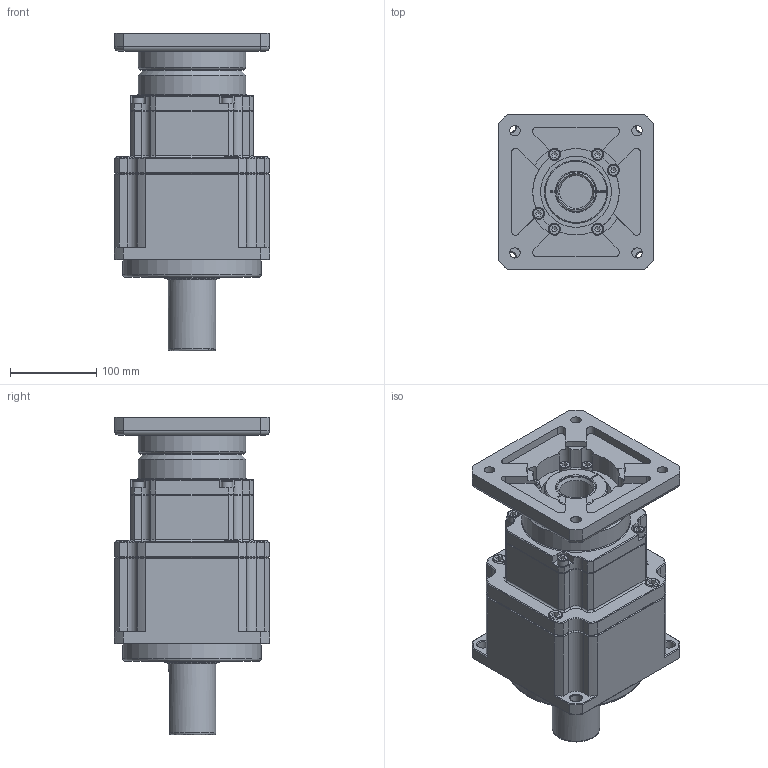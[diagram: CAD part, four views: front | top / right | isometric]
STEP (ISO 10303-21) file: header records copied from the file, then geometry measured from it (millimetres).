
FILE_DESCRIPTION((''),'2;1');
FILE_NAME('C:\인벤터교육\SPI180S015KA\SPI180S015~100KA.stp','2009-11-12T09:53:56',('choejs'),(''),'Autodesk Inventor 2010','Autodesk Inventor 2010','');
FILE_SCHEMA(('AUTOMOTIVE_DESIGN { 1 0 10303 214 1 1 1 1 }'));
Length unit declared in the file: millimetre
Products named in the file (8): SPI180S015KA 조립도; CARRIER CASE(2단); CLAMP RING(2단); Input adapter Flange(2단); INPUT CASE(2단); OUTPUT CASE(2단); KS B 1003 - M 10 x 20; KS B 1003 - M 8 x 20
Assembly tree (19 placements, depth 2):
  SPI180S015KA 조립도
    CARRIER CASE(2단)
    CLAMP RING(2단)
    Input adapter Flange(2단)
    INPUT CASE(2단)
    OUTPUT CASE(2단)
    KS B 1003 - M 10 x 20  x4
    KS B 1003 - M 8 x 20  x10
Bounding box: 180 x 180 x 367.4 mm (x, y, z)
Volume: 5848435.2 mm3; surface area: 465176 mm2
Topology: 19 solids, 19 shells, 683 faces, 1604 edges, 990 vertices
Faces by surface type: plane 314, cylinder 175, cone 105, bspline 53, torus 36
Full cylindrical faces by diameter (mm): 8 x10, 8.7 x6, 9 x4, 10 x4, 12 x4, 13 x14, 14 x6, 16 x4, 38 x1, 44.5 x1, 46 x1, 54.7 x1, 55 x1, 64.7 x1, 82 x1, 89 x2, 120 x1, 125 x2, 130 x2, 135 x1, 160 x1, 165 x1
Entity records: 15567 total; most frequent: CARTESIAN_POINT 4098, DIRECTION 2365, ORIENTED_EDGE 2196, EDGE_CURVE 1098, AXIS2_PLACEMENT_3D 931, VERTEX_POINT 727, EDGE_LOOP 669, VECTOR 503
